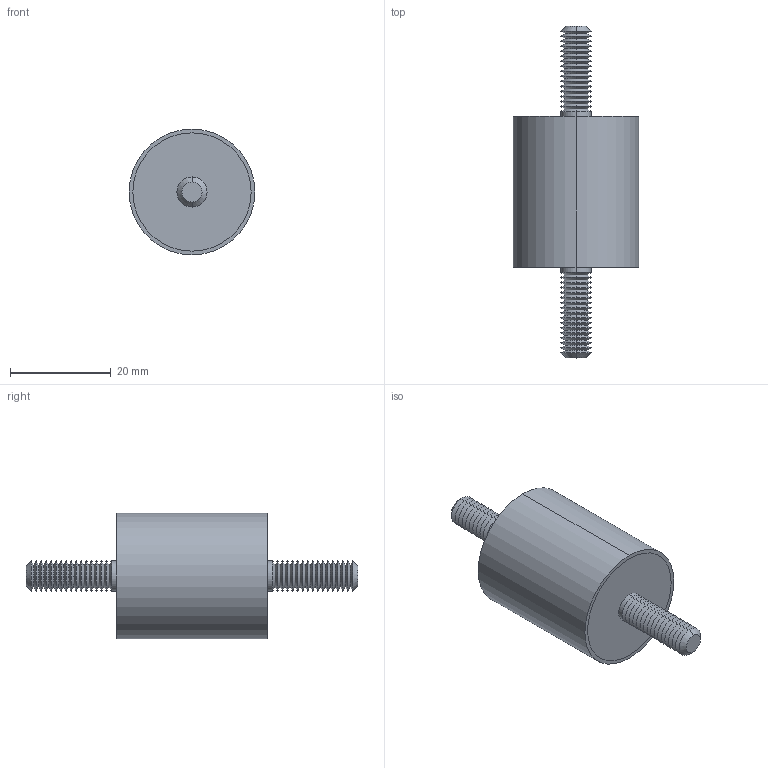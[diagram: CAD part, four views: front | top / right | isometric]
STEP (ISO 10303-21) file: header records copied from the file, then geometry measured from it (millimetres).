
FILE_DESCRIPTION (( 'STEP AP203' ), '1' );
FILE_NAME ('61040.W0256.step', '2019-09-24T22:32:50', ( '' ), ( '' ), 'SwSTEP 2.0', 'SolidWorks 2017', '' );
FILE_SCHEMA (( 'CONFIG_CONTROL_DESIGN' ));
Length unit declared in the file: millimetre
Products named in the file (4): Part2_61040.W0256; 61040.W0256; Part3_61040.W0256; Part1_61040.W0256
Assembly tree (3 placements, depth 2):
  61040.W0256
    Part1_61040.W0256
    Part2_61040.W0256
    Part3_61040.W0256
Bounding box: 25 x 66 x 25 mm (x, y, z)
Volume: 15491.3 mm3; surface area: 6598.8 mm2
Topology: 3 solids, 3 shells, 156 faces, 306 edges, 160 vertices
Faces by surface type: cone 132, cylinder 14, plane 10
Entity records: 4308 total; most frequent: DIRECTION 790, CARTESIAN_POINT 628, ORIENTED_EDGE 612, AXIS2_PLACEMENT_3D 322, EDGE_CURVE 306, CIRCLE 160, VERTEX_POINT 160, EDGE_LOOP 160
